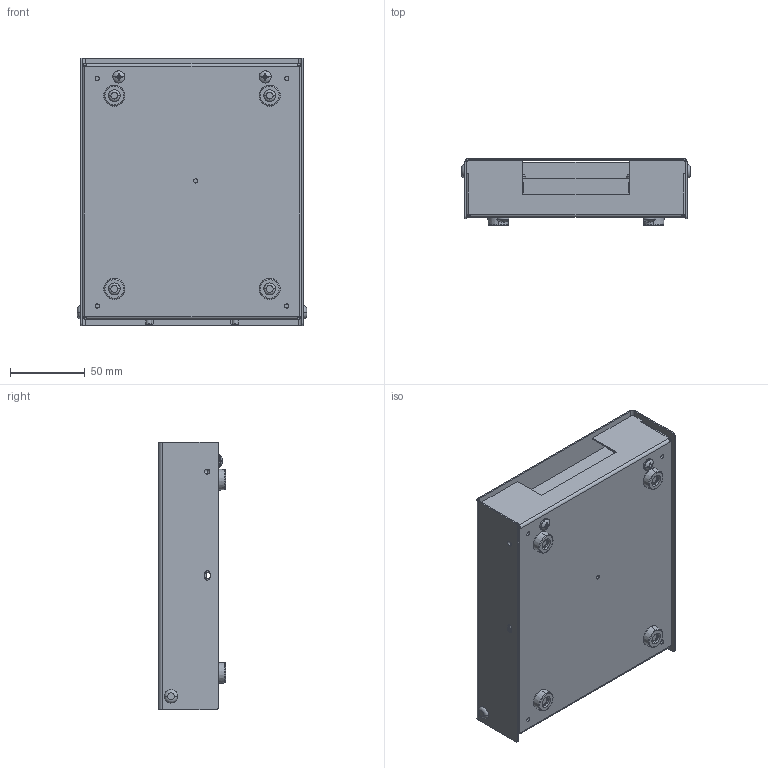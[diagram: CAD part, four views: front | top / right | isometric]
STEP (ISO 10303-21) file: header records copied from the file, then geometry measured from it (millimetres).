
FILE_DESCRIPTION((''),'2;1');
FILE_NAME('CD_SCH-68','2010-09-21T',('dkendric'),(''),'PRO/ENGINEER BY PARAMETRIC TECHNOLOGY CORPORATION, 2006510','PRO/ENGINEER BY PARAMETRIC TECHNOLOGY CORPORATION, 2006510','');
FILE_SCHEMA(('CONFIG_CONTROL_DESIGN'));
Length unit declared in the file: inch
Products named in the file (1): CD_SCH-68
Bounding box: 153.57 x 44.96 x 179.59 mm (x, y, z)
Volume: 131381.9 mm3; surface area: 215169.9 mm2
Topology: 1 solids, 2 shells, 862 faces, 2148 edges, 1230 vertices
Faces by surface type: plane 386, cylinder 228, bspline 136, torus 40, sphere 36, cone 36
Entity records: 27958 total; most frequent: CARTESIAN_POINT 8326, DIRECTION 4024, ORIENTED_EDGE 4016, EDGE_CURVE 2008, AXIS2_PLACEMENT_3D 1526, VERTEX_POINT 1344, EDGE_LOOP 982, VECTOR 972
